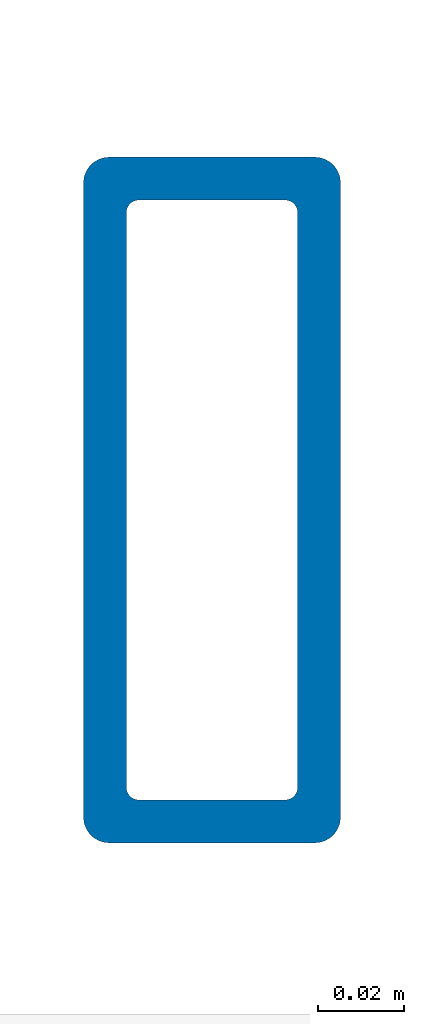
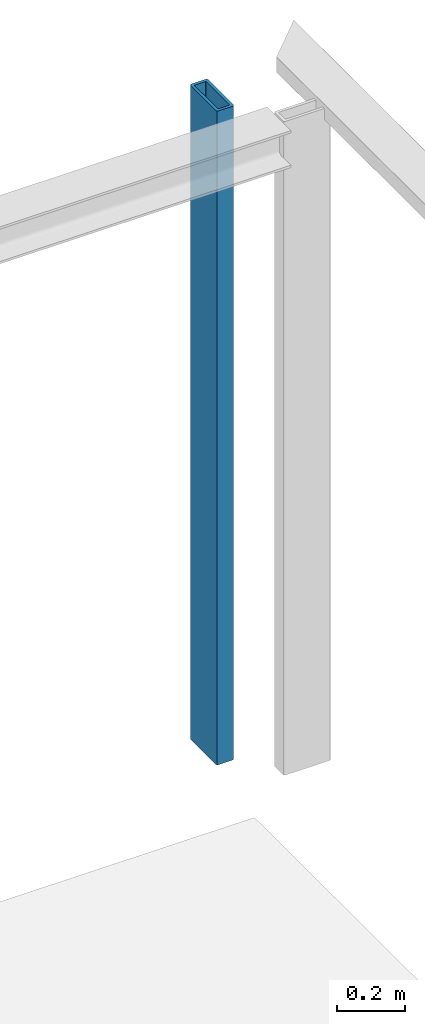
# One storey, part 3 of 32: 1 column.
"""IFC2X3 building model written with IfcOpenShell, lengths in millimetres."""

from ifc_helpers import new_model, entity, si_unit, converted_unit, derived_unit, direction, frame, frame_2d, origin, place, context, subcontext, project, spatial, polyline, circle_curve, parameter, trimmed, segment, composite_curve, outline, extrude, source, transform, mapped, material, type_object, type_shapes, element, save


model = new_model("IFC2X3")

# Units and contexts
model_context = context("Model", 3, precision=0.01, world=origin(), true_north=direction((6.123031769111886e-17, 1.0)))
body_context = subcontext(model_context, "Body", "Model", "MODEL_VIEW")
ifc_project = project(units=[si_unit("LENGTHUNIT", "METRE", prefix="MILLI"), si_unit("AREAUNIT", "SQUARE_METRE"), si_unit("VOLUMEUNIT", "CUBIC_METRE"), converted_unit("PLANEANGLEUNIT", "DEGREE", entity("IfcRatioMeasure", 0.017453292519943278), si_unit("PLANEANGLEUNIT", "RADIAN"), dimensions=[0, 0, 0, 0, 0, 0, 0]), si_unit("MASSUNIT", "GRAM", prefix="KILO"), derived_unit("MASSDENSITYUNIT", [(si_unit("MASSUNIT", "GRAM", prefix="KILO"), 1), (si_unit("LENGTHUNIT", "METRE"), -3)]), derived_unit("IONCONCENTRATIONUNIT", [(si_unit("MASSUNIT", "GRAM", prefix="KILO"), 1), (si_unit("LENGTHUNIT", "METRE"), -3)]), derived_unit("MOMENTOFINERTIAUNIT", [(si_unit("LENGTHUNIT", "METRE"), 4)]), si_unit("TIMEUNIT", "SECOND"), si_unit("FREQUENCYUNIT", "HERTZ"), si_unit("THERMODYNAMICTEMPERATUREUNIT", "DEGREE_CELSIUS"), derived_unit("THERMALTRANSMITTANCEUNIT", [(si_unit("MASSUNIT", "GRAM", prefix="KILO"), 1), (si_unit("THERMODYNAMICTEMPERATUREUNIT", "KELVIN"), -1), (si_unit("TIMEUNIT", "SECOND"), -3)]), derived_unit("THERMALCONDUCTANCEUNIT", [(si_unit("MASSUNIT", "GRAM", prefix="KILO"), 1), (si_unit("THERMODYNAMICTEMPERATUREUNIT", "KELVIN"), -1), (si_unit("TIMEUNIT", "SECOND"), -3), (si_unit("LENGTHUNIT", "METRE"), 1)]), derived_unit("VOLUMETRICFLOWRATEUNIT", [(si_unit("LENGTHUNIT", "METRE"), 3), (si_unit("TIMEUNIT", "SECOND"), -1)]), derived_unit("MASSFLOWRATEUNIT", [(si_unit("MASSUNIT", "GRAM", prefix="KILO"), 1), (si_unit("TIMEUNIT", "SECOND"), -1)]), derived_unit("ROTATIONALFREQUENCYUNIT", [(si_unit("TIMEUNIT", "SECOND"), -1)]), si_unit("ELECTRICCURRENTUNIT", "AMPERE"), si_unit("ELECTRICVOLTAGEUNIT", "VOLT"), si_unit("POWERUNIT", "WATT"), si_unit("FORCEUNIT", "NEWTON", prefix="KILO"), si_unit("ILLUMINANCEUNIT", "LUX"), si_unit("LUMINOUSFLUXUNIT", "LUMEN"), si_unit("LUMINOUSINTENSITYUNIT", "CANDELA"), derived_unit("USERDEFINED", [(si_unit("MASSUNIT", "GRAM", prefix="KILO"), -1), (si_unit("LENGTHUNIT", "METRE"), -2), (si_unit("TIMEUNIT", "SECOND"), 3), (si_unit("LUMINOUSFLUXUNIT", "LUMEN"), 1)]), derived_unit("USERDEFINED", [(si_unit("MASSUNIT", "GRAM", prefix="KILO"), 1), (si_unit("TIMEUNIT", "SECOND"), -3), (si_unit("LENGTHUNIT", "METRE"), 3), (si_unit("ELECTRICCURRENTUNIT", "AMPERE"), -2)]), derived_unit("SOUNDPOWERUNIT", [(si_unit("MASSUNIT", "GRAM", prefix="KILO"), 1), (si_unit("TIMEUNIT", "SECOND"), -3), (si_unit("LENGTHUNIT", "METRE"), 2)]), derived_unit("SOUNDPRESSUREUNIT", [(si_unit("MASSUNIT", "GRAM", prefix="KILO"), 1), (si_unit("LENGTHUNIT", "METRE"), -1), (si_unit("TIMEUNIT", "SECOND"), -2)]), derived_unit("LINEARVELOCITYUNIT", [(si_unit("LENGTHUNIT", "METRE"), 1), (si_unit("TIMEUNIT", "SECOND"), -1)]), si_unit("PRESSUREUNIT", "PASCAL"), derived_unit("USERDEFINED", [(si_unit("MASSUNIT", "GRAM", prefix="KILO"), 1), (si_unit("LENGTHUNIT", "METRE"), -2), (si_unit("TIMEUNIT", "SECOND"), -2)]), derived_unit("LINEARFORCEUNIT", [(si_unit("MASSUNIT", "GRAM", prefix="KILO"), 1), (si_unit("TIMEUNIT", "SECOND"), -2)]), derived_unit("PLANARFORCEUNIT", [(si_unit("MASSUNIT", "GRAM", prefix="KILO"), 1), (si_unit("LENGTHUNIT", "METRE"), -1), (si_unit("TIMEUNIT", "SECOND"), -2)]), derived_unit("SPECIFICHEATCAPACITYUNIT", [(si_unit("THERMODYNAMICTEMPERATUREUNIT", "KELVIN"), -1), (si_unit("LENGTHUNIT", "METRE"), 2), (si_unit("TIMEUNIT", "SECOND"), -2)]), derived_unit("HEATINGVALUEUNIT", [(si_unit("LENGTHUNIT", "METRE"), 2), (si_unit("TIMEUNIT", "SECOND"), -2)]), derived_unit("VAPORPERMEABILITYUNIT", [(si_unit("LENGTHUNIT", "METRE"), -1), (si_unit("TIMEUNIT", "SECOND"), 1)]), derived_unit("DYNAMICVISCOSITYUNIT", [(si_unit("MASSUNIT", "GRAM", prefix="KILO"), 1), (si_unit("TIMEUNIT", "SECOND"), -1), (si_unit("LENGTHUNIT", "METRE"), -1)]), derived_unit("THERMALEXPANSIONCOEFFICIENTUNIT", [(si_unit("THERMODYNAMICTEMPERATUREUNIT", "KELVIN"), -1)]), derived_unit("MODULUSOFELASTICITYUNIT", [(si_unit("MASSUNIT", "GRAM", prefix="KILO"), 1), (si_unit("LENGTHUNIT", "METRE"), -1), (si_unit("TIMEUNIT", "SECOND"), -2)]), derived_unit("ISOTHERMALMOISTURECAPACITYUNIT", [(si_unit("LENGTHUNIT", "METRE"), 3), (si_unit("MASSUNIT", "GRAM", prefix="KILO"), -1)]), derived_unit("MOISTUREDIFFUSIVITYUNIT", [(si_unit("TIMEUNIT", "SECOND"), -1), (si_unit("LENGTHUNIT", "METRE"), 2)])], contexts=[model_context])

# Site, building, storey
site_placement = place(None, frame((0.0, 300.0, 0.0)))
site = spatial("IfcSite", under=ifc_project, at=site_placement, Name="<Kadastrale nummers>", CompositionType="ELEMENT")
building_placement = place(site_placement, origin())
building = spatial("IfcBuilding", under=site, at=building_placement, CompositionType="ELEMENT")
storey_placement = place(building_placement, frame((0.0, 0.0, 7150.000035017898)))
storey = spatial("IfcBuildingStorey", under=building, at=storey_placement, Name="02 tweede verdieping", CompositionType="ELEMENT", Elevation=7150.000035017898)

# Column
ifc_material = material(Name="ISR_Staal")
column_type = type_object("IfcColumnType", Name="NLRS_28_SCO_TLB_kolom koker RHS_gen_ASN:kolom K120x60x10", PredefinedType="COLUMN", material=ifc_material)
shared_shape = source(origin(), body_context, "Body", "SweptSolid", [
    extrude(outline(composite_curve([segment(polyline([(-74.0, -30.0), (74.0, -30.0)]), True, "CONTINUOUS"), segment(trimmed(circle_curve(frame_2d((74.0, -24.0), x_axis=(0.0, -1.0)), 6.000000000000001), [parameter(359.9999999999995)], [parameter(89.99999999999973)], True, "PARAMETER"), True, "CONTINUOUS"), segment(polyline([(80.0, -24.0), (80.0, 24.0)]), True, "CONTINUOUS"), segment(trimmed(circle_curve(frame_2d((74.0, 24.0), x_axis=(0.0, -1.0)), 6.0), [parameter(90.00000000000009)], [parameter(179.9999999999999)], True, "PARAMETER"), True, "CONTINUOUS"), segment(polyline([(74.0, 30.0), (-74.0, 30.0)]), True, "CONTINUOUS"), segment(trimmed(circle_curve(frame_2d((-74.0, 24.0), x_axis=(0.0, -1.0)), 6.0), [parameter(179.9999999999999)], [parameter(269.99999999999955)], True, "PARAMETER"), True, "CONTINUOUS"), segment(polyline([(-80.0, 24.0), (-80.0, -24.0)]), True, "CONTINUOUS"), segment(trimmed(circle_curve(frame_2d((-74.0, -24.0), x_axis=(0.0, -1.0)), 6.0), [parameter(269.9999999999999)], [parameter(0.0)], True, "PARAMETER"), True, "CONTINUOUS")], self_intersect=False), holes=[composite_curve([segment(trimmed(circle_curve(frame_2d((-67.0, 17.0), x_axis=(0.0, -1.0)), 3.0000000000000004), [parameter(179.99999999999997)], [parameter(269.99999999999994)], True, "PARAMETER"), False, "CONTINUOUS"), segment(polyline([(-67.0, 20.0), (67.0, 20.0)]), True, "CONTINUOUS"), segment(trimmed(circle_curve(frame_2d((67.0, 17.0), x_axis=(0.0, -1.0)), 3.0), [parameter(90.00000000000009)], [parameter(179.9999999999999)], True, "PARAMETER"), False, "CONTINUOUS"), segment(polyline([(70.0, 17.0), (70.0, -17.0)]), True, "CONTINUOUS"), segment(trimmed(circle_curve(frame_2d((67.0, -17.0), x_axis=(0.0, -1.0)), 2.9999999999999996), [parameter(1.5266662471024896e-13)], [parameter(90.00000000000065)], True, "PARAMETER"), False, "CONTINUOUS"), segment(polyline([(67.0, -20.0), (-67.0, -20.0)]), True, "CONTINUOUS"), segment(trimmed(circle_curve(frame_2d((-67.0, -17.0), x_axis=(0.0, -1.0)), 3.0000000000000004), [parameter(269.99999999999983)], [parameter(1.5266662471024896e-13)], True, "PARAMETER"), False, "CONTINUOUS"), segment(polyline([(-70.0, -17.0), (-70.0, 17.0)]), True, "CONTINUOUS")], self_intersect=False)]), frame((41400.0, 49995.0, 7350.000035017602), z_axis=(0.0, 0.0, 1.0), x_axis=(0.0, -1.0, 0.0)), (0.0, 0.0, 1.0), 2349.9999649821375),
])
type_shapes(column_type, [shared_shape])
column_placement = place(storey_placement, frame((0.0, 0.0, -7150.000035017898)))
element("IfcColumn", 1, at=column_placement, inside=storey, type_object=column_type, material=ifc_material, Name="NLRS_28_SCO_TLB_kolom koker RHS_gen_ASN:kolom K120x60x10", ObjectType="NLRS_28_SCO_TLB_kolom koker RHS_gen_ASN:kolom K120x60x10", context=body_context, shape_type="MappedRepresentation", body=[
    mapped(shared_shape, transform((0.0, 0.0, 0.0), scale=1.0)),
])

save(model, "model.ifc")
